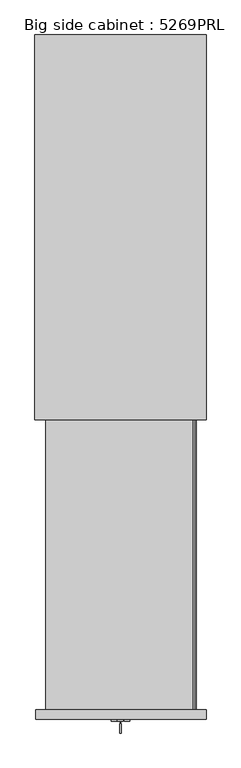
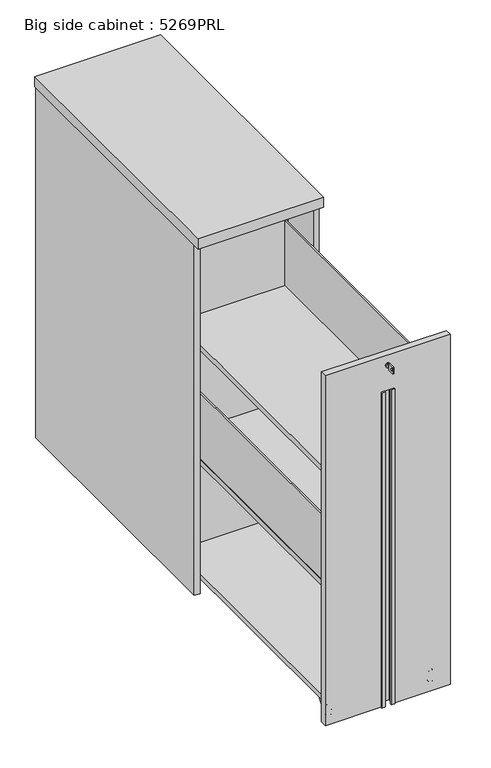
"""IFC4 building model written with IfcOpenShell, lengths in millimetres: furniture geometry, Big side cabinet : 5269PRL."""

from ifc_helpers import new_model, si_unit, point, frame, frame_2d, origin, origin_with_axes, place, context, project, spatial, polyline, circle_curve, ellipse_curve, trimmed, segment, composite_curve, outline, extrude, source, transform, mapped, element, save
from ifc_brep_helpers import plane_surface, cylinder_surface, revolved_surface, advanced_brep


def big_side_cabinet_5269prl_38346a54(model_context):
    return source(origin(), model_context, "Body", "SolidModel", [
        extrude(outline(polyline([(1.5783188, 20.1617145), (1.5783188, 10.1617145), (-8.4216812, 10.1617145), (-8.4216812, 20.1617145), (1.5783188, 20.1617145)])), origin_with_axes(), (0.0, 0.0, 1.0), 10.0),
        extrude(outline(polyline([(180.5000002, 898.0), (198.5, 898.0), (198.5, 22.9999769), (180.5000002, 22.9999769), (180.5000002, 898.0)])), frame((0.0, 0.0, 5.0), z_axis=(0.0, 0.0, 1.0), x_axis=(1.0, 0.0, 0.0)), (0.0, 0.0, 1.0), 1180.0),
        extrude(outline(polyline([(-180.5000002, 878.4999997), (-180.5000002, 890.9999997), (180.5000002, 890.9999997), (180.5000002, 878.4999997), (-180.5000002, 878.4999997)])), frame((0.0, 0.0, 5.0), z_axis=(0.0, 0.0, 1.0), x_axis=(1.0, 0.0, 0.0)), (0.0, 0.0, 1.0), 1180.0),
        extrude(outline(polyline([(-180.5000002, 898.0), (-180.5000002, 22.9999769), (-198.5, 22.9999769), (-198.5, 898.0), (-180.5000002, 898.0)])), frame((0.0, 0.0, 5.0), z_axis=(0.0, 0.0, 1.0), x_axis=(1.0, 0.0, 0.0)), (0.0, 0.0, 1.0), 1180.0),
        extrude(outline(polyline([(180.5000002, 70.0000151), (-180.5000002, 70.0000151), (-180.5000002, 838.5000021), (180.5000002, 838.5000021), (180.5000002, 70.0000151)])), frame((0.0, 0.0, 20.0583505), z_axis=(0.0, 0.0, 1.0), x_axis=(1.0, 0.0, 0.0)), (0.0, 0.0, 1.0), 17.9999982),
        extrude(outline(polyline([(200.0, 0.0), (-200.0, 0.0), (-200.0, 900.0), (200.0, 900.0), (200.0, 0.0)])), frame((0.0, 0.0, 1185.0), z_axis=(0.0, 0.0, 1.0), x_axis=(1.0, 0.0, 0.0)), (0.0, 0.0, 1.0), 35.0),
        extrude(outline(composite_curve([segment(trimmed(circle_curve(frame_2d((-160.5000002, 806.0000021)), 20.0), [point((-180.5000002, 806.0000021))], [point((-140.5000002, 806.0000021))], False, "CARTESIAN"), True, "CONTINUOUS"), segment(trimmed(circle_curve(frame_2d((-160.5000002, 806.0000021)), 20.0), [point((-140.5000002, 806.0000021))], [point((-180.5000002, 806.0000021))], False, "CARTESIAN"), True, "CONTINUOUS")], self_intersect=False)), origin_with_axes(), (0.0, 0.0, 1.0), 19.0539492),
        extrude(outline(composite_curve([segment(trimmed(circle_curve(frame_2d((-160.5000002, 98.9999918)), 20.0), [point((-180.5000002, 98.9999918))], [point((-140.5000002, 98.9999918))], False, "CARTESIAN"), True, "CONTINUOUS"), segment(trimmed(circle_curve(frame_2d((-160.5000002, 98.9999918)), 20.0), [point((-140.5000002, 98.9999918))], [point((-180.5000002, 98.9999918))], False, "CARTESIAN"), True, "CONTINUOUS")], self_intersect=False)), origin_with_axes(), (0.0, 0.0, 1.0), 19.0539492),
        extrude(outline(composite_curve([segment(trimmed(circle_curve(frame_2d((160.5000002, 806.0000021)), 20.0), [point((140.5000002, 806.0000021))], [point((180.5000002, 806.0000021))], False, "CARTESIAN"), True, "CONTINUOUS"), segment(trimmed(circle_curve(frame_2d((160.5000002, 806.0000021)), 20.0), [point((180.5000002, 806.0000021))], [point((140.5000002, 806.0000021))], False, "CARTESIAN"), True, "CONTINUOUS")], self_intersect=False)), origin_with_axes(), (0.0, 0.0, 1.0), 19.0539492),
        extrude(outline(composite_curve([segment(trimmed(circle_curve(frame_2d((160.5000002, 98.9999918)), 20.0), [point((140.5000002, 98.9999918))], [point((180.5000002, 98.9999918))], False, "CARTESIAN"), True, "CONTINUOUS"), segment(trimmed(circle_curve(frame_2d((160.5000002, 98.9999918)), 20.0), [point((180.5000002, 98.9999918))], [point((140.5000002, 98.9999918))], False, "CARTESIAN"), True, "CONTINUOUS")], self_intersect=False)), origin_with_axes(), (0.0, 0.0, 1.0), 19.0539492),
        advanced_brep(
        [(155.997354, -648.0000393, 10.5), (158.25, -648.0000393, 12.752646), (158.25, -648.0000393, 29.247354), (155.997354, -648.0000393, 31.5), (155.997354, -648.0000393, 3.0456405), (155.997354, -648.0000393, 38.9543595), (159.0429945, -648.0000393, 0.0), (159.0429945, -648.0000393, 42.0), (162.5, -648.0000393, 0.0), (162.5, -648.0000393, 42.0), (162.5, -648.0000393, 16.75), (162.5, -648.0000393, 25.25), (158.25, -648.0000393, 16.75), (158.25, -648.0000393, 25.25)],
        [
            (0, 1),
            (1, 2, circle_curve(frame((158.25, -648.0000393, 21.0), z_axis=(1.0, 0.0, 0.0), x_axis=(0.0, 0.0, 1.0)), 8.247354)),
            (2, 3),
            (3, 0, circle_curve(frame((155.997354, -648.0000393, 21.0), z_axis=(-1.0, 0.0, 0.0), x_axis=(0.0, 0.0, 1.0)), 10.5)),
            (2, 1, circle_curve(frame((158.25, -648.0000393, 21.0), z_axis=(1.0, 0.0, 0.0), x_axis=(0.0, 0.0, 1.0)), 8.247354)),
            (0, 3, circle_curve(frame((155.997354, -648.0000393, 21.0), z_axis=(-1.0, 0.0, 0.0), x_axis=(0.0, 0.0, 1.0)), 10.5)),
            (4, 0),
            (3, 5),
            (5, 4, circle_curve(frame((155.997354, -648.0000393, 21.0), z_axis=(-1.0, 0.0, 0.0), x_axis=(0.0, 0.0, 1.0)), 17.9543595)),
            (4, 5, circle_curve(frame((155.997354, -648.0000393, 21.0), z_axis=(-1.0, 0.0, 0.0), x_axis=(0.0, 0.0, 1.0)), 17.9543595)),
            (6, 4, circle_curve(frame((159.0429945, -648.0000393, 3.0456405), z_axis=(0.0, 1.0, 0.0), x_axis=(-1.0, 0.0, 0.0)), 3.0456405)),
            (5, 7, circle_curve(frame((159.0429945, -648.0000393, 38.9543595), z_axis=(0.0, 1.0, 0.0), x_axis=(-1.0, 0.0, 0.0)), 3.0456405)),
            (7, 6, circle_curve(frame((159.0429945, -648.0000393, 21.0), z_axis=(-1.0, 0.0, 0.0), x_axis=(0.0, 0.0, 1.0)), 21.0)),
            (6, 7, circle_curve(frame((159.0429945, -648.0000393, 21.0), z_axis=(-1.0, 0.0, 0.0), x_axis=(0.0, 0.0, 1.0)), 21.0)),
            (8, 6),
            (7, 9),
            (9, 8, circle_curve(frame((162.5, -648.0000393, 21.0), z_axis=(-1.0, 0.0, 0.0), x_axis=(0.0, 0.0, 1.0)), 21.0)),
            (8, 9, circle_curve(frame((162.5, -648.0000393, 21.0), z_axis=(-1.0, 0.0, 0.0), x_axis=(0.0, 0.0, 1.0)), 21.0)),
            (10, 8),
            (9, 11),
            (11, 10, circle_curve(frame((162.5, -648.0000393, 21.0), z_axis=(-1.0, 0.0, 0.0), x_axis=(0.0, 0.0, 1.0)), 4.25)),
            (10, 11, circle_curve(frame((162.5, -648.0000393, 21.0), z_axis=(-1.0, 0.0, 0.0), x_axis=(0.0, 0.0, 1.0)), 4.25)),
            (12, 10),
            (11, 13),
            (13, 12, circle_curve(frame((158.25, -648.0000393, 21.0), z_axis=(-1.0, 0.0, 0.0), x_axis=(0.0, 0.0, 1.0)), 4.25)),
            (12, 13, circle_curve(frame((158.25, -648.0000393, 21.0), z_axis=(-1.0, 0.0, 0.0), x_axis=(0.0, 0.0, 1.0)), 4.25)),
            (1, 12),
            (13, 2),
        ],
        [
            revolved_surface(polyline([(158.25, -648.0000393, 29.247354), (155.997354, -648.0000393, 31.5)]), (135.5019942, -648.0000393, 21.0), (1.0, 0.0, 0.0)),
            plane_surface(frame((155.997354, -648.0000393, 21.0), z_axis=(-1.0, 0.0, 0.0), x_axis=(0.0, 0.0, 1.0))),
            revolved_surface(trimmed(ellipse_curve(frame((159.0429945, -648.0000393, 38.9543595), z_axis=(0.0, 1.0, 0.0), x_axis=(-1.0, 0.0, 0.0)), 3.0456405, 3.0456405), [point((155.997354, -648.0000393, 38.9543595))], [point((159.0429945, -648.0000393, 42.0))], True, "CARTESIAN"), (135.5019942, -648.0000393, 21.0), (1.0, 0.0, 0.0)),
            cylinder_surface(frame((135.5019942, -648.0000393, 21.0), z_axis=(1.0, 0.0, 0.0), x_axis=(0.0, 0.0, 1.0)), 21.0),
            plane_surface(frame((162.5, -648.0000393, 21.0), z_axis=(1.0, 0.0, 0.0), x_axis=(0.0, 0.0, 1.0))),
            revolved_surface(polyline([(162.5, -648.0000393, 25.25), (158.25, -648.0000393, 25.25)]), (135.5019942, -648.0000393, 21.0), (1.0, 0.0, 0.0)),
            plane_surface(frame((158.25, -648.0000393, 21.0), z_axis=(-1.0, 0.0, 0.0), x_axis=(0.0, 0.0, 1.0))),
        ],
        [
            (0, [[1, 2, 3, 4]]),
            (0, [[-3, 5, -1, 6]]),
            (1, [[7, -4, 8, 9]]),
            (1, [[-8, -6, -7, 10]]),
            (2, [[11, -9, 12, 13]]),
            (2, [[-12, -10, -11, 14]]),
            (3, [[15, -13, 16, 17]]),
            (3, [[-16, -14, -15, 18]]),
            (4, [[19, -17, 20, 21]]),
            (4, [[-20, -18, -19, 22]]),
            (5, [[23, -21, 24, 25]]),
            (5, [[-24, -22, -23, 26]]),
            (6, [[27, -25, 28, -2]]),
            (6, [[-28, -26, -27, -5]]),
        ],
    ),
        advanced_brep(
        [(174.351441, -648.0000393, 25.0), (174.351441, -648.0000393, 21.0), (174.351441, -648.0000393, 17.0), (169.8769483, -648.0000393, 17.0), (169.8769483, -648.0000393, 25.0)],
        [
            (0, 1),
            (1, 2),
            (2, 0, circle_curve(frame((174.351441, -648.0000393, 21.0), z_axis=(1.0, 0.0, 0.0), x_axis=(0.0, 0.0, -1.0)), 4.0)),
            (0, 2, circle_curve(frame((174.351441, -648.0000393, 21.0), z_axis=(1.0, 0.0, 0.0), x_axis=(0.0, 0.0, -1.0)), 4.0)),
            (2, 3),
            (3, 4, circle_curve(frame((169.8769483, -648.0000393, 21.0), z_axis=(1.0, 0.0, 0.0), x_axis=(0.0, 0.0, -1.0)), 4.0)),
            (4, 0),
            (4, 3, circle_curve(frame((169.8769483, -648.0000393, 21.0), z_axis=(1.0, 0.0, 0.0), x_axis=(0.0, 0.0, -1.0)), 4.0)),
        ],
        [
            plane_surface(frame((174.351441, -648.0000393, 21.0), z_axis=(1.0, 0.0, 0.0), x_axis=(0.0, 0.0, -1.0))),
            cylinder_surface(frame((142.5, -648.0000393, 21.0), z_axis=(-1.0, 0.0, 0.0), x_axis=(0.0, 0.0, -1.0)), 4.0),
            plane_surface(frame((169.8769483, -672.0000393, 46.0), z_axis=(-1.0, 0.0, 0.0), x_axis=(0.0, 1.0, 0.0))),
        ],
        [
            (0, [[1, 2, 3]]),
            (0, [[-1, 4, -2]]),
            (1, [[5, 6, 7, -3]]),
            (1, [[-7, 8, -5, -4]]),
            (2, [[-8, -6]]),
        ],
    ),
        advanced_brep(
        [(150.5708052, -648.0000393, 25.0), (155.0, -648.0000393, 25.0), (155.0, -648.0000393, 17.0), (150.5708052, -648.0000393, 17.0), (150.5708052, -648.0000393, 21.0)],
        [
            (0, 1),
            (1, 2, circle_curve(frame((155.0, -648.0000393, 21.0), z_axis=(-1.0, 0.0, 0.0), x_axis=(0.0, 0.0, -1.0)), 4.0)),
            (2, 3),
            (3, 0, circle_curve(frame((150.5708052, -648.0000393, 21.0), z_axis=(1.0, 0.0, 0.0), x_axis=(0.0, 0.0, -1.0)), 4.0)),
            (2, 1, circle_curve(frame((155.0, -648.0000393, 21.0), z_axis=(-1.0, 0.0, 0.0), x_axis=(0.0, 0.0, -1.0)), 4.0)),
            (0, 3, circle_curve(frame((150.5708052, -648.0000393, 21.0), z_axis=(1.0, 0.0, 0.0), x_axis=(0.0, 0.0, -1.0)), 4.0)),
            (3, 4),
            (4, 0),
        ],
        [
            cylinder_surface(frame((142.5, -648.0000393, 21.0), z_axis=(-1.0, 0.0, 0.0), x_axis=(0.0, 0.0, -1.0)), 4.0),
            plane_surface(frame((150.5708052, -648.0000393, 21.0), z_axis=(-1.0, 0.0, 0.0), x_axis=(0.0, 0.0, -1.0))),
            plane_surface(frame((155.0, -672.0000393, 0.0), z_axis=(1.0, 0.0, 0.0), x_axis=(0.0, 1.0, 0.0))),
        ],
        [
            (0, [[1, 2, 3, 4]]),
            (0, [[-3, 5, -1, 6]]),
            (1, [[7, 8, -4]]),
            (1, [[-8, -7, -6]]),
            (2, [[-5, -2]]),
        ],
    ),
        advanced_brep(
        [(166.75, -648.0000393, 12.752646), (169.002646, -648.0000393, 10.5), (169.002646, -648.0000393, 31.5), (166.75, -648.0000393, 29.247354), (169.002646, -648.0000393, 3.0456405), (169.002646, -648.0000393, 38.9543595), (165.9570055, -648.0000393, 0.0), (165.9570055, -648.0000393, 42.0), (162.5, -648.0000393, 0.0), (162.5, -648.0000393, 42.0), (162.5, -648.0000393, 21.0), (166.75, -648.0000393, 21.0)],
        [
            (0, 1),
            (1, 2, circle_curve(frame((169.002646, -648.0000393, 21.0), z_axis=(1.0, 0.0, 0.0), x_axis=(0.0, 0.0, 1.0)), 10.5)),
            (2, 3),
            (3, 0, circle_curve(frame((166.75, -648.0000393, 21.0), z_axis=(-1.0, 0.0, 0.0), x_axis=(0.0, 0.0, 1.0)), 8.247354)),
            (2, 1, circle_curve(frame((169.002646, -648.0000393, 21.0), z_axis=(1.0, 0.0, 0.0), x_axis=(0.0, 0.0, 1.0)), 10.5)),
            (0, 3, circle_curve(frame((166.75, -648.0000393, 21.0), z_axis=(-1.0, 0.0, 0.0), x_axis=(0.0, 0.0, 1.0)), 8.247354)),
            (1, 4),
            (4, 5, circle_curve(frame((169.002646, -648.0000393, 21.0), z_axis=(1.0, 0.0, 0.0), x_axis=(0.0, 0.0, 1.0)), 17.9543595)),
            (5, 2),
            (5, 4, circle_curve(frame((169.002646, -648.0000393, 21.0), z_axis=(1.0, 0.0, 0.0), x_axis=(0.0, 0.0, 1.0)), 17.9543595)),
            (4, 6, circle_curve(frame((165.9570055, -648.0000393, 3.0456405), z_axis=(0.0, 1.0, 0.0), x_axis=(1.0, 0.0, 0.0)), 3.0456405)),
            (6, 7, circle_curve(frame((165.9570055, -648.0000393, 21.0), z_axis=(1.0, 0.0, 0.0), x_axis=(0.0, 0.0, 1.0)), 21.0)),
            (7, 5, circle_curve(frame((165.9570055, -648.0000393, 38.9543595), z_axis=(0.0, 1.0, 0.0), x_axis=(1.0, 0.0, 0.0)), 3.0456405)),
            (7, 6, circle_curve(frame((165.9570055, -648.0000393, 21.0), z_axis=(1.0, 0.0, 0.0), x_axis=(0.0, 0.0, 1.0)), 21.0)),
            (6, 8),
            (8, 9, circle_curve(frame((162.5, -648.0000393, 21.0), z_axis=(1.0, 0.0, 0.0), x_axis=(0.0, 0.0, 1.0)), 21.0)),
            (9, 7),
            (9, 8, circle_curve(frame((162.5, -648.0000393, 21.0), z_axis=(1.0, 0.0, 0.0), x_axis=(0.0, 0.0, 1.0)), 21.0)),
            (8, 10),
            (10, 9),
            (11, 0),
            (3, 11),
        ],
        [
            revolved_surface(polyline([(169.002646, -648.0000393, 31.5), (166.75, -648.0000393, 29.247354)]), (189.4980058, -648.0000393, 21.0), (1.0, 0.0, 0.0)),
            plane_surface(frame((169.002646, -648.0000393, 21.0), z_axis=(1.0, 0.0, 0.0), x_axis=(0.0, 0.0, 1.0))),
            revolved_surface(trimmed(ellipse_curve(frame((165.9570055, -648.0000393, 38.9543595), z_axis=(0.0, 1.0, 0.0), x_axis=(1.0, 0.0, 0.0)), 3.0456405, 3.0456405), [point((165.9570055, -648.0000393, 42.0))], [point((169.002646, -648.0000393, 38.9543595))], True, "CARTESIAN"), (189.4980058, -648.0000393, 21.0), (1.0, 0.0, 0.0)),
            cylinder_surface(frame((189.4980058, -648.0000393, 21.0), z_axis=(1.0, 0.0, 0.0), x_axis=(0.0, 0.0, 1.0)), 21.0),
            plane_surface(frame((162.5, -648.0000393, 21.0), z_axis=(-1.0, 0.0, 0.0), x_axis=(0.0, 0.0, 1.0))),
            plane_surface(frame((166.75, -648.0000393, 21.0), z_axis=(1.0, 0.0, 0.0), x_axis=(0.0, 0.0, 1.0))),
        ],
        [
            (0, [[1, 2, 3, 4]]),
            (0, [[-3, 5, -1, 6]]),
            (1, [[7, 8, 9, -2]]),
            (1, [[-9, 10, -7, -5]]),
            (2, [[11, 12, 13, -8]]),
            (2, [[-13, 14, -11, -10]]),
            (3, [[15, 16, 17, -12]]),
            (3, [[-17, 18, -15, -14]]),
            (4, [[19, 20, -16]]),
            (4, [[-20, -19, -18]]),
            (5, [[21, -4, 22]]),
            (5, [[-22, -6, -21]]),
        ],
    ),
        advanced_brep(
        [(152.5, -624.0000393, 48.0), (152.5, -624.0000393, 42.0), (152.5, -640.0000393, 21.0), (152.5, -656.0000393, 21.0), (152.5, -672.0000393, 42.0), (152.5, -672.0000393, 48.0), (172.5, -624.0000393, 48.0), (172.5, -672.0000393, 48.0), (172.5, -672.0000393, 42.0), (172.5, -656.0000393, 21.0), (172.5, -640.0000393, 21.0), (172.5, -624.0000393, 42.0), (169.8769483, -656.0000393, 21.0), (169.8769483, -640.0000393, 21.0), (155.0, -640.0000393, 21.0), (155.0, -656.0000393, 21.0), (155.0, -672.0000393, 42.0), (155.0, -672.0000393, 46.0), (169.8769483, -672.0000393, 46.0), (169.8769483, -672.0000393, 42.0), (169.8769483, -624.0000393, 42.0), (169.8769483, -624.0000393, 46.0), (155.0, -624.0000393, 46.0), (155.0, -624.0000393, 42.0)],
        [
            (0, 1),
            (1, 2),
            (2, 3, circle_curve(frame((152.5, -648.0000393, 21.0), z_axis=(-1.0, 0.0, 0.0), x_axis=(0.0, -1.0, 0.0)), 8.0)),
            (3, 4),
            (4, 5),
            (5, 0),
            (6, 7),
            (7, 8),
            (8, 9),
            (9, 10, circle_curve(frame((172.5, -648.0000393, 21.0), z_axis=(1.0, 0.0, 0.0), x_axis=(0.0, -1.0, 0.0)), 8.0)),
            (10, 11),
            (11, 6),
            (5, 7),
            (6, 0),
            (9, 12),
            (12, 13, circle_curve(frame((169.8769483, -648.0000393, 21.0), z_axis=(1.0, 0.0, 0.0), x_axis=(0.0, -1.0, 0.0)), 8.0)),
            (13, 10),
            (2, 14),
            (14, 15, circle_curve(frame((155.0, -648.0000393, 21.0), z_axis=(-1.0, 0.0, 0.0), x_axis=(0.0, -1.0, 0.0)), 8.0)),
            (15, 3),
            (4, 16),
            (16, 17),
            (17, 18),
            (18, 19),
            (19, 8),
            (11, 20),
            (20, 21),
            (21, 22),
            (22, 23),
            (23, 1),
            (17, 22),
            (21, 18),
            (16, 15),
            (14, 23),
            (20, 13),
            (12, 19),
        ],
        [
            plane_surface(frame((152.5, -672.0000393, 48.0), z_axis=(-1.0, 0.0, 0.0), x_axis=(0.0, -1.0, 0.0))),
            plane_surface(frame((172.5, -672.0000393, 48.0), z_axis=(1.0, 0.0, 0.0), x_axis=(0.0, 1.0, 0.0))),
            plane_surface(frame((152.5, -624.0000393, 48.0), z_axis=(0.0, 0.0, 1.0), x_axis=(1.0, 0.0, 0.0))),
            cylinder_surface(frame((172.5, -648.0000393, 21.0), z_axis=(-1.0, 0.0, 0.0), x_axis=(0.0, -1.0, 0.0)), 8.0),
            plane_surface(frame((152.5, -672.0000393, 48.0), z_axis=(0.0, -1.0, 0.0), x_axis=(1.0, 0.0, 0.0))),
            plane_surface(frame((152.5, -624.0000393, 42.0), z_axis=(0.0, 1.0, 0.0), x_axis=(1.0, 0.0, 0.0))),
            plane_surface(frame((155.0, -672.0000393, 46.0), z_axis=(0.0, 0.0, -1.0), x_axis=(0.0, 1.0, 0.0))),
            plane_surface(frame((155.0, -672.0000393, 0.0), z_axis=(1.0, 0.0, 0.0), x_axis=(0.0, 1.0, 0.0))),
            plane_surface(frame((169.8769483, -672.0000393, 46.0), z_axis=(-1.0, 0.0, 0.0), x_axis=(0.0, 1.0, 0.0))),
            plane_surface(frame((152.5, -672.0000393, 42.0), z_axis=(0.0, -0.7954317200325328, -0.6060432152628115), x_axis=(1.0, 0.0, 0.0))),
            plane_surface(frame((152.5, -640.0000393, 21.0), z_axis=(0.0, 0.7954317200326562, -0.6060432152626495), x_axis=(1.0, 0.0, 0.0))),
        ],
        [
            (0, [[1, 2, 3, 4, 5, 6]]),
            (1, [[7, 8, 9, 10, 11, 12]]),
            (2, [[13, -7, 14, -6]]),
            (3, [[15, 16, 17, -10]]),
            (3, [[18, 19, 20, -3]]),
            (4, [[21, 22, 23, 24, 25, -8, -13, -5]]),
            (5, [[-14, -12, 26, 27, 28, 29, 30, -1]]),
            (6, [[-23, 31, -28, 32]]),
            (7, [[-22, 33, -19, 34, -29, -31]]),
            (8, [[-27, 35, -16, 36, -24, -32]]),
            (9, [[-20, -33, -21, -4]]),
            (9, [[-25, -36, -15, -9]]),
            (10, [[-30, -34, -18, -2]]),
            (10, [[-17, -35, -26, -11]]),
        ],
    ),
        extrude(outline(polyline([(-732.0000046, 1139.014113), (-732.0000046, 1161.0), (-710.0000046, 1161.0), (-710.0000046, 1139.014113), (-732.0000046, 1139.014113)]), holes=[composite_curve([segment(trimmed(circle_curve(frame_2d((-725.7500046, 1150.0070565)), 3.2230706), [point((-725.7500046, 1153.2301271))], [point((-725.7500046, 1146.7839859))], True, "CARTESIAN"), True, "CONTINUOUS"), segment(trimmed(circle_curve(frame_2d((-725.7500046, 1150.0070565)), 3.2230706), [point((-725.7500046, 1146.7839859))], [point((-725.7500046, 1153.2301271))], True, "CARTESIAN"), True, "CONTINUOUS")], self_intersect=False)]), frame((-2.0, 0.0, 0.0), z_axis=(1.0, 0.0, 0.0), x_axis=(0.0, 1.0, 0.0)), (0.0, 0.0, 1.0), 4.0416064),
        extrude(outline(polyline([(1.0416064, -710.0000046), (-1.0, -710.0000046), (-1.0, -704.0000046), (1.0416064, -704.0000046), (1.0416064, -710.0000046)])), frame((0.0, 0.0, 1146.014113), z_axis=(0.0, 0.0, 1.0), x_axis=(1.0, 0.0, 0.0)), (0.0, 0.0, 1.0), 7.985887),
        extrude(outline(composite_curve([segment(trimmed(circle_curve(frame_2d((1150.0, 0.0)), 7.0), [point((1150.0, -7.0))], [point((1150.0, 7.0))], False, "CARTESIAN"), True, "CONTINUOUS"), segment(trimmed(circle_curve(frame_2d((1150.0, 0.0)), 7.0), [point((1150.0, 7.0))], [point((1150.0, -7.0))], False, "CARTESIAN"), True, "CONTINUOUS")], self_intersect=False)), frame((0.0, -704.0000046, 0.0), z_axis=(0.0, 1.0, 0.0), x_axis=(0.0, 0.0, 1.0)), (0.0, 0.0, 1.0), 4.0),
        extrude(outline(polyline([(1182.0, 200.0000015), (1182.0, -198.5000015), (5.0, -198.5000015), (5.0, -17.7500067), (1065.0, -17.7500067), (1065.0, 17.7500067), (5.0, 17.7500067), (5.0, 200.0000015), (1182.0, 200.0000015)])), frame((0.0, -700.0000046, 0.0), z_axis=(0.0, 1.0, 0.0), x_axis=(0.0, 0.0, 1.0)), (0.0, 0.0, 1.0), 21.9999653),
        extrude(outline(polyline([(-21.2499929, -704.2058707), (-21.2499929, -700.0000046), (-17.7500067, -700.0000046), (-17.7500067, -678.0000393), (17.7500067, -678.0000393), (17.7500067, -700.0000046), (21.2499929, -700.0000046), (21.2499929, -704.2058707), (9.2499986, -704.2058707), (9.2499986, -698.4780496), (15.9519183, -695.3528931), (15.9519183, -680.3528931), (-15.9519183, -680.3528931), (-15.9519183, -695.3528931), (-9.2499986, -698.4780496), (-9.2499986, -704.2058707), (-21.2499929, -704.2058707)])), frame((0.0, 0.0, 5.0), z_axis=(0.0, 0.0, 1.0), x_axis=(1.0, 0.0, 0.0)), (0.0, 0.0, 1.0), 1060.0),
        extrude(outline(polyline([(169.8004833, -678.0000046), (169.8004833, 160.5000143), (173.7499883, 160.5000143), (173.7499883, -678.0000046), (169.8004833, -678.0000046)])), frame((0.0, 0.0, 836.0), z_axis=(0.0, 0.0, 1.0), x_axis=(1.0, 0.0, 0.0)), (0.0, 0.0, 1.0), 220.0),
        extrude(outline(polyline([(-169.8004833, -678.0000046), (-173.7499883, -678.0000046), (-173.7499883, 160.5000143), (-169.8004833, 160.5000143), (-169.8004833, -678.0000046)])), frame((0.0, 0.0, 451.0), z_axis=(0.0, 0.0, 1.0), x_axis=(1.0, 0.0, 0.0)), (0.0, 0.0, 1.0), 220.0),
        extrude(outline(polyline([(169.8004833, -678.0000046), (169.8004833, 160.5000143), (173.7499883, 160.5000143), (173.7499883, -678.0000046), (169.8004833, -678.0000046)])), frame((0.0, 0.0, 66.0), z_axis=(0.0, 0.0, 1.0), x_axis=(1.0, 0.0, 0.0)), (0.0, 0.0, 1.0), 220.0),
        advanced_brep(
        [(-155.997354, -648.0000393, 10.5), (-155.997354, -648.0000393, 31.5), (-158.25, -648.0000393, 29.247354), (-158.25, -648.0000393, 12.752646), (-155.997354, -648.0000393, 3.0456405), (-155.997354, -648.0000393, 38.9543595), (-159.0429945, -648.0000393, 0.0), (-159.0429945, -648.0000393, 42.0), (-162.5, -648.0000393, 0.0), (-162.5, -648.0000393, 42.0), (-162.5, -648.0000393, 16.75), (-162.5, -648.0000393, 25.25), (-158.25, -648.0000393, 16.75), (-158.25, -648.0000393, 25.25)],
        [
            (0, 1, circle_curve(frame((-155.997354, -648.0000393, 21.0), z_axis=(1.0, 0.0, 0.0), x_axis=(0.0, 0.0, 1.0)), 10.5)),
            (1, 2),
            (2, 3, circle_curve(frame((-158.25, -648.0000393, 21.0), z_axis=(-1.0, 0.0, 0.0), x_axis=(0.0, 0.0, 1.0)), 8.247354)),
            (3, 0),
            (1, 0, circle_curve(frame((-155.997354, -648.0000393, 21.0), z_axis=(1.0, 0.0, 0.0), x_axis=(0.0, 0.0, 1.0)), 10.5)),
            (3, 2, circle_curve(frame((-158.25, -648.0000393, 21.0), z_axis=(-1.0, 0.0, 0.0), x_axis=(0.0, 0.0, 1.0)), 8.247354)),
            (4, 5, circle_curve(frame((-155.997354, -648.0000393, 21.0), z_axis=(1.0, 0.0, 0.0), x_axis=(0.0, 0.0, 1.0)), 17.9543595)),
            (5, 1),
            (0, 4),
            (5, 4, circle_curve(frame((-155.997354, -648.0000393, 21.0), z_axis=(1.0, 0.0, 0.0), x_axis=(0.0, 0.0, 1.0)), 17.9543595)),
            (6, 7, circle_curve(frame((-159.0429945, -648.0000393, 21.0), z_axis=(1.0, 0.0, 0.0), x_axis=(0.0, 0.0, 1.0)), 21.0)),
            (7, 5, circle_curve(frame((-159.0429945, -648.0000393, 38.9543595), z_axis=(0.0, 1.0, 0.0), x_axis=(1.0, 0.0, 0.0)), 3.0456405)),
            (4, 6, circle_curve(frame((-159.0429945, -648.0000393, 3.0456405), z_axis=(0.0, 1.0, 0.0), x_axis=(1.0, 0.0, 0.0)), 3.0456405)),
            (7, 6, circle_curve(frame((-159.0429945, -648.0000393, 21.0), z_axis=(1.0, 0.0, 0.0), x_axis=(0.0, 0.0, 1.0)), 21.0)),
            (8, 9, circle_curve(frame((-162.5, -648.0000393, 21.0), z_axis=(1.0, 0.0, 0.0), x_axis=(0.0, 0.0, 1.0)), 21.0)),
            (9, 7),
            (6, 8),
            (9, 8, circle_curve(frame((-162.5, -648.0000393, 21.0), z_axis=(1.0, 0.0, 0.0), x_axis=(0.0, 0.0, 1.0)), 21.0)),
            (10, 11, circle_curve(frame((-162.5, -648.0000393, 21.0), z_axis=(1.0, 0.0, 0.0), x_axis=(0.0, 0.0, 1.0)), 4.25)),
            (11, 9),
            (8, 10),
            (11, 10, circle_curve(frame((-162.5, -648.0000393, 21.0), z_axis=(1.0, 0.0, 0.0), x_axis=(0.0, 0.0, 1.0)), 4.25)),
            (12, 13, circle_curve(frame((-158.25, -648.0000393, 21.0), z_axis=(1.0, 0.0, 0.0), x_axis=(0.0, 0.0, 1.0)), 4.25)),
            (13, 11),
            (10, 12),
            (13, 12, circle_curve(frame((-158.25, -648.0000393, 21.0), z_axis=(1.0, 0.0, 0.0), x_axis=(0.0, 0.0, 1.0)), 4.25)),
            (2, 13),
            (12, 3),
        ],
        [
            revolved_surface(polyline([(-158.25, -648.0000393, 29.247354), (-155.997354, -648.0000393, 31.5)]), (-135.5019942, -648.0000393, 21.0), (-1.0, 0.0, 0.0)),
            plane_surface(frame((-155.997354, -648.0000393, 21.0), z_axis=(1.0, 0.0, 0.0), x_axis=(0.0, 0.0, 1.0))),
            revolved_surface(trimmed(ellipse_curve(frame((-159.0429945, -648.0000393, 38.9543595), z_axis=(0.0, -1.0, 0.0), x_axis=(1.0, 0.0, 0.0)), 3.0456405, 3.0456405), [point((-155.997354, -648.0000393, 38.9543595))], [point((-159.0429945, -648.0000393, 42.0))], True, "CARTESIAN"), (-135.5019942, -648.0000393, 21.0), (-1.0, 0.0, 0.0)),
            cylinder_surface(frame((-135.5019942, -648.0000393, 21.0), z_axis=(-1.0, 0.0, 0.0), x_axis=(0.0, 0.0, 1.0)), 21.0),
            plane_surface(frame((-162.5, -648.0000393, 21.0), z_axis=(-1.0, 0.0, 0.0), x_axis=(0.0, 0.0, 1.0))),
            revolved_surface(polyline([(-162.5, -648.0000393, 25.25), (-158.25, -648.0000393, 25.25)]), (-135.5019942, -648.0000393, 21.0), (-1.0, 0.0, 0.0)),
            plane_surface(frame((-158.25, -648.0000393, 21.0), z_axis=(1.0, 0.0, 0.0), x_axis=(0.0, 0.0, 1.0))),
        ],
        [
            (0, [[1, 2, 3, 4]]),
            (0, [[5, -4, 6, -2]]),
            (1, [[7, 8, -1, 9]]),
            (1, [[10, -9, -5, -8]]),
            (2, [[11, 12, -7, 13]]),
            (2, [[14, -13, -10, -12]]),
            (3, [[15, 16, -11, 17]]),
            (3, [[18, -17, -14, -16]]),
            (4, [[19, 20, -15, 21]]),
            (4, [[22, -21, -18, -20]]),
            (5, [[23, 24, -19, 25]]),
            (5, [[26, -25, -22, -24]]),
            (6, [[-3, 27, -23, 28]]),
            (6, [[-6, -28, -26, -27]]),
        ],
    ),
        advanced_brep(
        [(-174.351441, -648.0000393, 25.0), (-174.351441, -648.0000393, 17.0), (-174.351441, -648.0000393, 21.0), (-169.8769483, -648.0000393, 25.0), (-169.8769483, -648.0000393, 17.0)],
        [
            (0, 1, circle_curve(frame((-174.351441, -648.0000393, 21.0), z_axis=(-1.0, 0.0, 0.0), x_axis=(0.0, 0.0, -1.0)), 4.0)),
            (1, 2),
            (2, 0),
            (1, 0, circle_curve(frame((-174.351441, -648.0000393, 21.0), z_axis=(-1.0, 0.0, 0.0), x_axis=(0.0, 0.0, -1.0)), 4.0)),
            (0, 3),
            (3, 4, circle_curve(frame((-169.8769483, -648.0000393, 21.0), z_axis=(-1.0, 0.0, 0.0), x_axis=(0.0, 0.0, -1.0)), 4.0)),
            (4, 1),
            (4, 3, circle_curve(frame((-169.8769483, -648.0000393, 21.0), z_axis=(-1.0, 0.0, 0.0), x_axis=(0.0, 0.0, -1.0)), 4.0)),
        ],
        [
            plane_surface(frame((-174.351441, -648.0000393, 21.0), z_axis=(-1.0, 0.0, 0.0), x_axis=(0.0, 0.0, -1.0))),
            cylinder_surface(frame((-142.5, -648.0000393, 21.0), z_axis=(1.0, 0.0, 0.0), x_axis=(0.0, 0.0, -1.0)), 4.0),
            plane_surface(frame((-169.8769483, -672.0000393, 46.0), z_axis=(1.0, 0.0, 0.0), x_axis=(0.0, 1.0, 0.0))),
        ],
        [
            (0, [[1, 2, 3]]),
            (0, [[-2, 4, -3]]),
            (1, [[-1, 5, 6, 7]]),
            (1, [[-4, -7, 8, -5]]),
            (2, [[-6, -8]]),
        ],
    ),
        advanced_brep(
        [(-150.5708052, -648.0000393, 25.0), (-150.5708052, -648.0000393, 17.0), (-155.0, -648.0000393, 17.0), (-155.0, -648.0000393, 25.0), (-150.5708052, -648.0000393, 21.0)],
        [
            (0, 1, circle_curve(frame((-150.5708052, -648.0000393, 21.0), z_axis=(-1.0, 0.0, 0.0), x_axis=(0.0, 0.0, -1.0)), 4.0)),
            (1, 2),
            (2, 3, circle_curve(frame((-155.0, -648.0000393, 21.0), z_axis=(1.0, 0.0, 0.0), x_axis=(0.0, 0.0, -1.0)), 4.0)),
            (3, 0),
            (1, 0, circle_curve(frame((-150.5708052, -648.0000393, 21.0), z_axis=(-1.0, 0.0, 0.0), x_axis=(0.0, 0.0, -1.0)), 4.0)),
            (3, 2, circle_curve(frame((-155.0, -648.0000393, 21.0), z_axis=(1.0, 0.0, 0.0), x_axis=(0.0, 0.0, -1.0)), 4.0)),
            (0, 4),
            (4, 1),
        ],
        [
            cylinder_surface(frame((-142.5, -648.0000393, 21.0), z_axis=(1.0, 0.0, 0.0), x_axis=(0.0, 0.0, -1.0)), 4.0),
            plane_surface(frame((-150.5708052, -648.0000393, 21.0), z_axis=(1.0, 0.0, 0.0), x_axis=(0.0, 0.0, -1.0))),
            plane_surface(frame((-155.0, -672.0000393, 0.0), z_axis=(-1.0, 0.0, 0.0), x_axis=(0.0, 1.0, 0.0))),
        ],
        [
            (0, [[1, 2, 3, 4]]),
            (0, [[5, -4, 6, -2]]),
            (1, [[-1, 7, 8]]),
            (1, [[-5, -8, -7]]),
            (2, [[-3, -6]]),
        ],
    ),
        advanced_brep(
        [(-166.75, -648.0000393, 12.752646), (-166.75, -648.0000393, 29.247354), (-169.002646, -648.0000393, 31.5), (-169.002646, -648.0000393, 10.5), (-169.002646, -648.0000393, 38.9543595), (-169.002646, -648.0000393, 3.0456405), (-165.9570055, -648.0000393, 42.0), (-165.9570055, -648.0000393, 0.0), (-162.5, -648.0000393, 42.0), (-162.5, -648.0000393, 0.0), (-162.5, -648.0000393, 21.0), (-166.75, -648.0000393, 21.0)],
        [
            (0, 1, circle_curve(frame((-166.75, -648.0000393, 21.0), z_axis=(1.0, 0.0, 0.0), x_axis=(0.0, 0.0, 1.0)), 8.247354)),
            (1, 2),
            (2, 3, circle_curve(frame((-169.002646, -648.0000393, 21.0), z_axis=(-1.0, 0.0, 0.0), x_axis=(0.0, 0.0, 1.0)), 10.5)),
            (3, 0),
            (1, 0, circle_curve(frame((-166.75, -648.0000393, 21.0), z_axis=(1.0, 0.0, 0.0), x_axis=(0.0, 0.0, 1.0)), 8.247354)),
            (3, 2, circle_curve(frame((-169.002646, -648.0000393, 21.0), z_axis=(-1.0, 0.0, 0.0), x_axis=(0.0, 0.0, 1.0)), 10.5)),
            (2, 4),
            (4, 5, circle_curve(frame((-169.002646, -648.0000393, 21.0), z_axis=(-1.0, 0.0, 0.0), x_axis=(0.0, 0.0, 1.0)), 17.9543595)),
            (5, 3),
            (5, 4, circle_curve(frame((-169.002646, -648.0000393, 21.0), z_axis=(-1.0, 0.0, 0.0), x_axis=(0.0, 0.0, 1.0)), 17.9543595)),
            (4, 6, circle_curve(frame((-165.9570055, -648.0000393, 38.9543595), z_axis=(0.0, 1.0, 0.0), x_axis=(-1.0, 0.0, 0.0)), 3.0456405)),
            (6, 7, circle_curve(frame((-165.9570055, -648.0000393, 21.0), z_axis=(-1.0, 0.0, 0.0), x_axis=(0.0, 0.0, 1.0)), 21.0)),
            (7, 5, circle_curve(frame((-165.9570055, -648.0000393, 3.0456405), z_axis=(0.0, 1.0, 0.0), x_axis=(-1.0, 0.0, 0.0)), 3.0456405)),
            (7, 6, circle_curve(frame((-165.9570055, -648.0000393, 21.0), z_axis=(-1.0, 0.0, 0.0), x_axis=(0.0, 0.0, 1.0)), 21.0)),
            (6, 8),
            (8, 9, circle_curve(frame((-162.5, -648.0000393, 21.0), z_axis=(-1.0, 0.0, 0.0), x_axis=(0.0, 0.0, 1.0)), 21.0)),
            (9, 7),
            (9, 8, circle_curve(frame((-162.5, -648.0000393, 21.0), z_axis=(-1.0, 0.0, 0.0), x_axis=(0.0, 0.0, 1.0)), 21.0)),
            (8, 10),
            (10, 9),
            (11, 1),
            (0, 11),
        ],
        [
            revolved_surface(polyline([(-169.002646, -648.0000393, 31.5), (-166.75, -648.0000393, 29.247354)]), (-189.4980058, -648.0000393, 21.0), (-1.0, 0.0, 0.0)),
            plane_surface(frame((-169.002646, -648.0000393, 21.0), z_axis=(-1.0, 0.0, 0.0), x_axis=(0.0, 0.0, 1.0))),
            revolved_surface(trimmed(ellipse_curve(frame((-165.9570055, -648.0000393, 38.9543595), z_axis=(0.0, -1.0, 0.0), x_axis=(-1.0, 0.0, 0.0)), 3.0456405, 3.0456405), [point((-165.9570055, -648.0000393, 42.0))], [point((-169.002646, -648.0000393, 38.9543595))], True, "CARTESIAN"), (-189.4980058, -648.0000393, 21.0), (-1.0, 0.0, 0.0)),
            cylinder_surface(frame((-189.4980058, -648.0000393, 21.0), z_axis=(-1.0, 0.0, 0.0), x_axis=(0.0, 0.0, 1.0)), 21.0),
            plane_surface(frame((-162.5, -648.0000393, 21.0), z_axis=(1.0, 0.0, 0.0), x_axis=(0.0, 0.0, 1.0))),
            plane_surface(frame((-166.75, -648.0000393, 21.0), z_axis=(-1.0, 0.0, 0.0), x_axis=(0.0, 0.0, 1.0))),
        ],
        [
            (0, [[1, 2, 3, 4]]),
            (0, [[5, -4, 6, -2]]),
            (1, [[-3, 7, 8, 9]]),
            (1, [[-6, -9, 10, -7]]),
            (2, [[-8, 11, 12, 13]]),
            (2, [[-10, -13, 14, -11]]),
            (3, [[-12, 15, 16, 17]]),
            (3, [[-14, -17, 18, -15]]),
            (4, [[-16, 19, 20]]),
            (4, [[-18, -20, -19]]),
            (5, [[21, -1, 22]]),
            (5, [[-22, -5, -21]]),
        ],
    ),
        advanced_brep(
        [(-152.5, -624.0000393, 48.0), (-152.5, -672.0000393, 48.0), (-152.5, -672.0000393, 42.0), (-152.5, -656.0000393, 21.0), (-152.5, -640.0000393, 21.0), (-152.5, -624.0000393, 42.0), (-172.5, -624.0000393, 48.0), (-172.5, -624.0000393, 42.0), (-172.5, -640.0000393, 21.0), (-172.5, -656.0000393, 21.0), (-172.5, -672.0000393, 42.0), (-172.5, -672.0000393, 48.0), (-155.0, -656.0000393, 21.0), (-155.0, -640.0000393, 21.0), (-169.8769483, -640.0000393, 21.0), (-169.8769483, -656.0000393, 21.0), (-169.8769483, -672.0000393, 42.0), (-169.8769483, -672.0000393, 46.0), (-155.0, -672.0000393, 46.0), (-155.0, -672.0000393, 42.0), (-155.0, -624.0000393, 42.0), (-155.0, -624.0000393, 46.0), (-169.8769483, -624.0000393, 46.0), (-169.8769483, -624.0000393, 42.0)],
        [
            (0, 1),
            (1, 2),
            (2, 3),
            (3, 4, circle_curve(frame((-152.5, -648.0000393, 21.0), z_axis=(1.0, 0.0, 0.0), x_axis=(0.0, -1.0, 0.0)), 8.0)),
            (4, 5),
            (5, 0),
            (6, 7),
            (7, 8),
            (8, 9, circle_curve(frame((-172.5, -648.0000393, 21.0), z_axis=(-1.0, 0.0, 0.0), x_axis=(0.0, -1.0, 0.0)), 8.0)),
            (9, 10),
            (10, 11),
            (11, 6),
            (0, 6),
            (11, 1),
            (3, 12),
            (12, 13, circle_curve(frame((-155.0, -648.0000393, 21.0), z_axis=(1.0, 0.0, 0.0), x_axis=(0.0, -1.0, 0.0)), 8.0)),
            (13, 4),
            (8, 14),
            (14, 15, circle_curve(frame((-169.8769483, -648.0000393, 21.0), z_axis=(-1.0, 0.0, 0.0), x_axis=(0.0, -1.0, 0.0)), 8.0)),
            (15, 9),
            (10, 16),
            (16, 17),
            (17, 18),
            (18, 19),
            (19, 2),
            (5, 20),
            (20, 21),
            (21, 22),
            (22, 23),
            (23, 7),
            (17, 22),
            (21, 18),
            (20, 13),
            (12, 19),
            (16, 15),
            (14, 23),
        ],
        [
            plane_surface(frame((-152.5, -672.0000393, 48.0), z_axis=(1.0, 0.0, 0.0), x_axis=(0.0, -1.0, 0.0))),
            plane_surface(frame((-172.5, -672.0000393, 48.0), z_axis=(-1.0, 0.0, 0.0), x_axis=(0.0, 1.0, 0.0))),
            plane_surface(frame((-152.5, -624.0000393, 48.0), z_axis=(0.0, 0.0, 1.0), x_axis=(-1.0, 0.0, 0.0))),
            cylinder_surface(frame((-172.5, -648.0000393, 21.0), z_axis=(1.0, 0.0, 0.0), x_axis=(0.0, -1.0, 0.0)), 8.0),
            plane_surface(frame((-152.5, -672.0000393, 48.0), z_axis=(0.0, -1.0, 0.0), x_axis=(-1.0, 0.0, 0.0))),
            plane_surface(frame((-152.5, -624.0000393, 42.0), z_axis=(0.0, 1.0, 0.0), x_axis=(-1.0, 0.0, 0.0))),
            plane_surface(frame((-155.0, -672.0000393, 46.0), z_axis=(0.0, 0.0, -1.0), x_axis=(0.0, 1.0, 0.0))),
            plane_surface(frame((-155.0, -672.0000393, 0.0), z_axis=(-1.0, 0.0, 0.0), x_axis=(0.0, 1.0, 0.0))),
            plane_surface(frame((-169.8769483, -672.0000393, 46.0), z_axis=(1.0, 0.0, 0.0), x_axis=(0.0, 1.0, 0.0))),
            plane_surface(frame((-152.5, -672.0000393, 42.0), z_axis=(0.0, -0.7954317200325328, -0.6060432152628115), x_axis=(-1.0, 0.0, 0.0))),
            plane_surface(frame((-152.5, -640.0000393, 21.0), z_axis=(0.0, 0.7954317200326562, -0.6060432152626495), x_axis=(-1.0, 0.0, 0.0))),
        ],
        [
            (0, [[1, 2, 3, 4, 5, 6]]),
            (1, [[7, 8, 9, 10, 11, 12]]),
            (2, [[-1, 13, -12, 14]]),
            (3, [[-4, 15, 16, 17]]),
            (3, [[-9, 18, 19, 20]]),
            (4, [[-2, -14, -11, 21, 22, 23, 24, 25]]),
            (5, [[-6, 26, 27, 28, 29, 30, -7, -13]]),
            (6, [[31, -28, 32, -23]]),
            (7, [[-32, -27, 33, -16, 34, -24]]),
            (8, [[-31, -22, 35, -19, 36, -29]]),
            (9, [[-3, -25, -34, -15]]),
            (9, [[-10, -20, -35, -21]]),
            (10, [[-5, -17, -33, -26]]),
            (10, [[-8, -30, -36, -18]]),
        ],
    ),
        extrude(outline(polyline([(178.9999867, 160.5000143), (-177.0096218, 160.5000143), (-177.0096218, 178.5000057), (178.9999867, 178.5000057), (178.9999867, 160.5000143)])), frame((0.0, 0.0, 48.0), z_axis=(0.0, 0.0, 1.0), x_axis=(1.0, 0.0, 0.0)), (0.0, 0.0, 1.0), 1017.0),
        extrude(outline(polyline([(-175.0096218, 160.5000143), (176.9999867, 160.5000143), (176.9999867, -678.0000046), (-175.0096218, -678.0000046), (-175.0096218, 160.5000143)])), frame((0.0, 0.0, 818.0), z_axis=(0.0, 0.0, 1.0), x_axis=(1.0, 0.0, 0.0)), (0.0, 0.0, 1.0), 18.0),
        extrude(outline(polyline([(-175.0096218, 160.5000143), (176.9999867, 160.5000143), (176.9999867, -678.0000046), (-175.0096218, -678.0000046), (-175.0096218, 160.5000143)])), frame((0.0, 0.0, 433.0), z_axis=(0.0, 0.0, 1.0), x_axis=(1.0, 0.0, 0.0)), (0.0, 0.0, 1.0), 18.0),
        extrude(outline(polyline([(-175.0096218, 160.5000143), (176.9999867, 160.5000143), (176.9999867, -678.0000046), (-175.0096218, -678.0000046), (-175.0096218, 160.5000143)])), frame((0.0, 0.0, 48.0), z_axis=(0.0, 0.0, 1.0), x_axis=(1.0, 0.0, 0.0)), (0.0, 0.0, 1.0), 18.0),
    ])


if __name__ == "__main__":
    model = new_model("IFC4")
    model_context = context("Model", 3, world=origin())
    ifc_project = project(units=[si_unit("LENGTHUNIT", "METRE", prefix="MILLI")], contexts=[model_context])
    site = spatial("IfcSite", under=ifc_project)
    building = spatial("IfcBuilding", under=site)
    placement = place(None, origin())
    big_side_cabinet_5269prl_shape = big_side_cabinet_5269prl_38346a54(model_context)
    element("IfcFurniture", 1, ObjectType="Big side cabinet : 5269PRL", at=placement, inside=building, context=model_context, shape_type="MappedRepresentation", body=[
        mapped(big_side_cabinet_5269prl_shape, transform((0.0, 0.0, 0.0), x_axis=(1.0, 0.0, 0.0), y_axis=(0.0, 1.0, 0.0), z_axis=(0.0, 0.0, 1.0))),
    ])
    save(model, "model.ifc")
